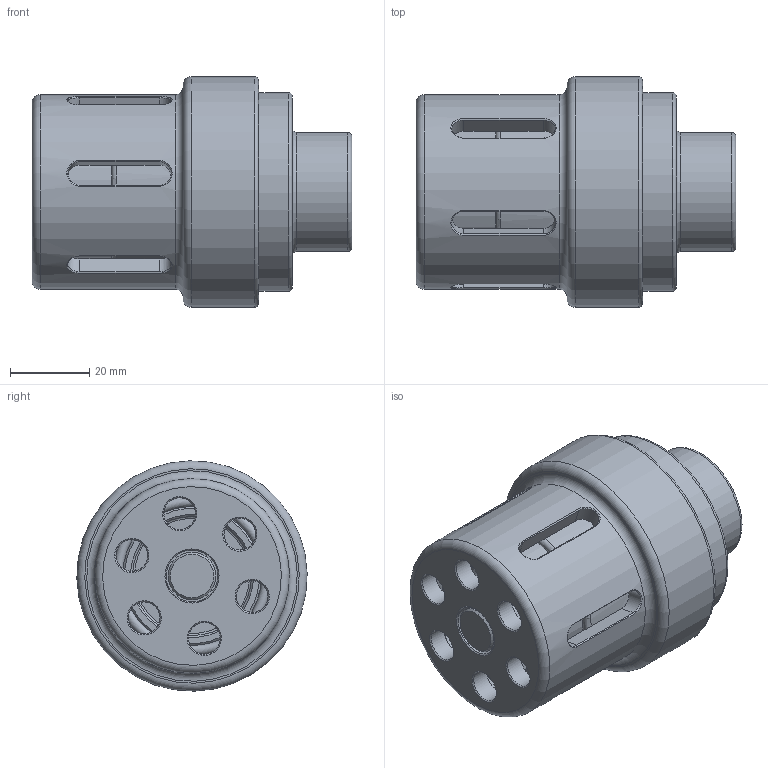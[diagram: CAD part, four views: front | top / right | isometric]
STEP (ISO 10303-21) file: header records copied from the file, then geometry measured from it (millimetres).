
FILE_DESCRIPTION(/* description */ (''),/* implementation_level */ '2;1');
FILE_NAME(/* name */ 'IKM-1044880 - MINI COMPENSATOR 30ML - 6231-010_COMPRESSED_SOLID.stp',/* time_stamp */ '2025-08-20T12:12:18+02:00',/* author */ ('KateB'),/* organization */ (''),/* preprocessor_version */ 'ST-DEVELOPER v19.2',/* originating_system */ 'Autodesk Inventor 2023',/* authorisation */ '');
FILE_SCHEMA (('CONFIG_CONTROL_DESIGN'));
Length unit declared in the file: millimetre
Products named in the file (1): IKM-1044880 - MINI COMPENSATOR 30ML - 6231-010_COMPRESSED_SOLID
Bounding box: 80.5 x 57.99 x 57.99 mm (x, y, z)
Volume: 85733.9 mm3; surface area: 45157.1 mm2
Topology: 1 solids, 2 shells, 148 faces, 391 edges, 236 vertices
Faces by surface type: plane 55, cylinder 46, torus 20, cone 14, bspline 13
Full cylindrical faces by diameter (mm): 8 x6, 12 x3, 13 x1, 18.631 x1, 21 x1, 29.5 x1, 30 x2, 35 x1, 36 x1, 39 x1, 40 x2, 46 x1, 48 x1, 49 x1, 50 x1, 51 x1, 53.3 x1, 54 x1, 58 x1
Entity records: 7910 total; most frequent: CARTESIAN_POINT 4006, DIRECTION 826, ORIENTED_EDGE 782, EDGE_CURVE 391, AXIS2_PLACEMENT_3D 343, VERTEX_POINT 236, CIRCLE 207, EDGE_LOOP 175
